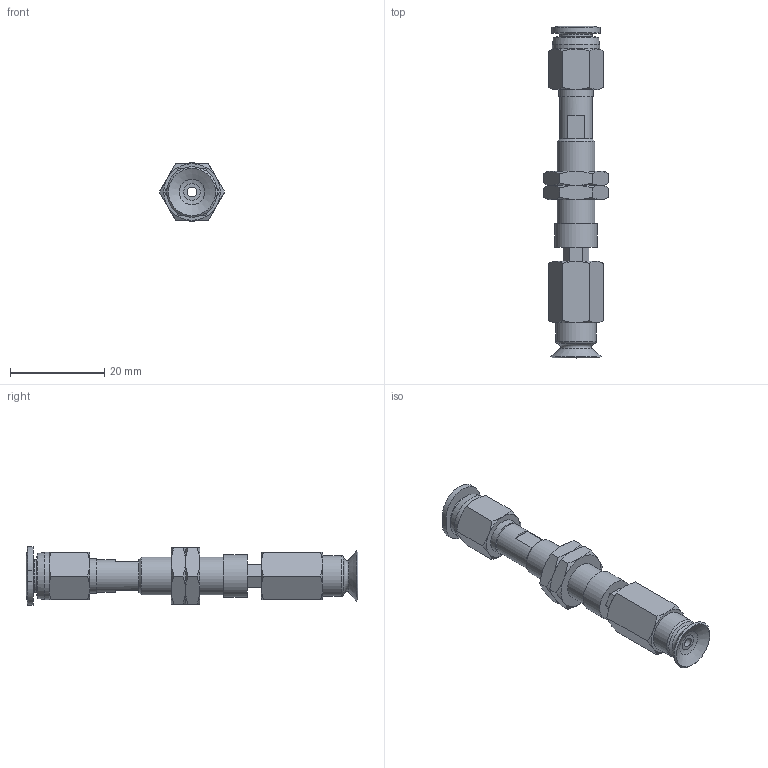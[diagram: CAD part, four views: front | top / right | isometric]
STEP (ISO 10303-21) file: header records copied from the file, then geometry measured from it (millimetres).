
FILE_DESCRIPTION(('STEP AP203'),'1');
FILE_NAME('-O.stp','2025-08-27T03:07:36',(' '),(' '),'Spatial InterOp 3D',' ',' ');
FILE_SCHEMA(('CONFIG_CONTROL_DESIGN'));
Length unit declared in the file: millimetre
Products named in the file (7): BNABPFTH-10A-3-※-O; ADAPTER; NAPATH-10A-3--M; Nut-10A-3-h; NAPFTH-10A-3-FBODY; BPFG-10A-※; PC-C_06-M5
Assembly tree (7 placements, depth 2):
  BNABPFTH-10A-3-※-O
    ADAPTER
    NAPATH-10A-3--M
    Nut-10A-3-h  x2
    NAPFTH-10A-3-FBODY
    BPFG-10A-※
    PC-C_06-M5
Bounding box: 13.86 x 70.48 x 12.4 mm (x, y, z)
Volume: 3377.1 mm3; surface area: 5060.5 mm2
Topology: 6 solids, 9 shells, 174 faces, 366 edges, 223 vertices
Faces by surface type: plane 71, cone 62, cylinder 23, torus 10, bspline 5, revolution 3
Full cylindrical faces by diameter (mm): 2 x3, 4 x4, 4.134 x1, 5 x1, 6 x2, 7 x2, 7.188 x2, 7.4 x1, 8 x1, 8.2 x1, 8.7 x1, 9 x1, 10 x1
Entity records: 4515 total; most frequent: CARTESIAN_POINT 1271, DIRECTION 597, ORIENTED_EDGE 522, EDGE_CURVE 263, AXIS2_PLACEMENT_3D 259, EDGE_LOOP 222, VERTEX_POINT 185, FACE_OUTER_BOUND 122
